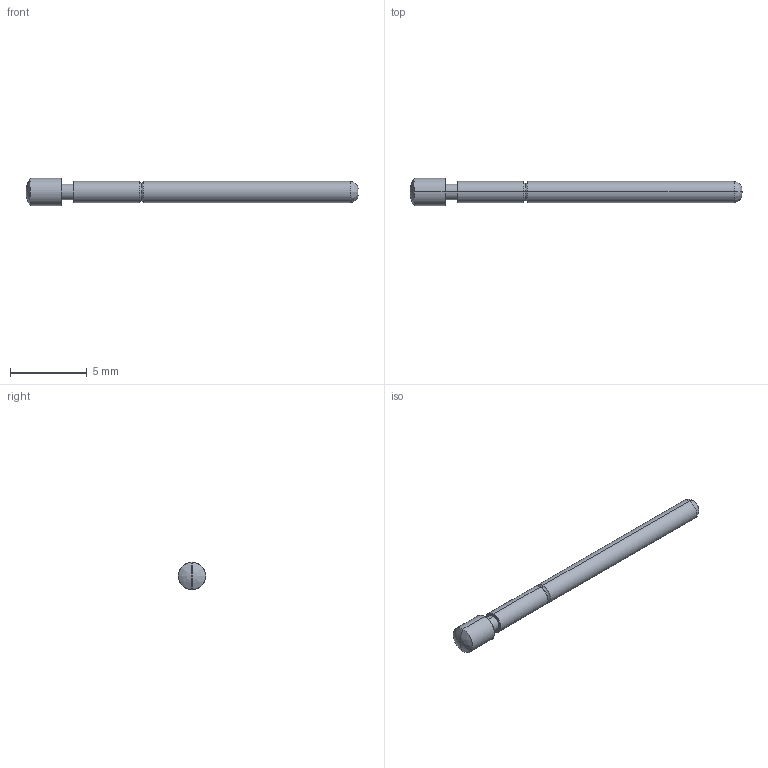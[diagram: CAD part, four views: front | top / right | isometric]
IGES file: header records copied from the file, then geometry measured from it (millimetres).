
Start section: SolidWorks IGES file using analytic representation for surfaces
Global section: file name: O:\PYLON\IGES FILES\P2664\P2664G-2R1S REC'D.IGS; native system: SolidWorks 2015; preprocessor: SolidWorks 2015; author: kgolden; date: 171019.130841; units: inch
Bounding box: 21.61 x 1.78 x 1.78 mm (x, y, z)
Surface area: 103.4 mm2 (no closed solid volume)
Topology: 0 solids, 0 shells, 22 faces, 184 edges, 184 vertices
Faces by surface type: bspline 12, revolution 10
